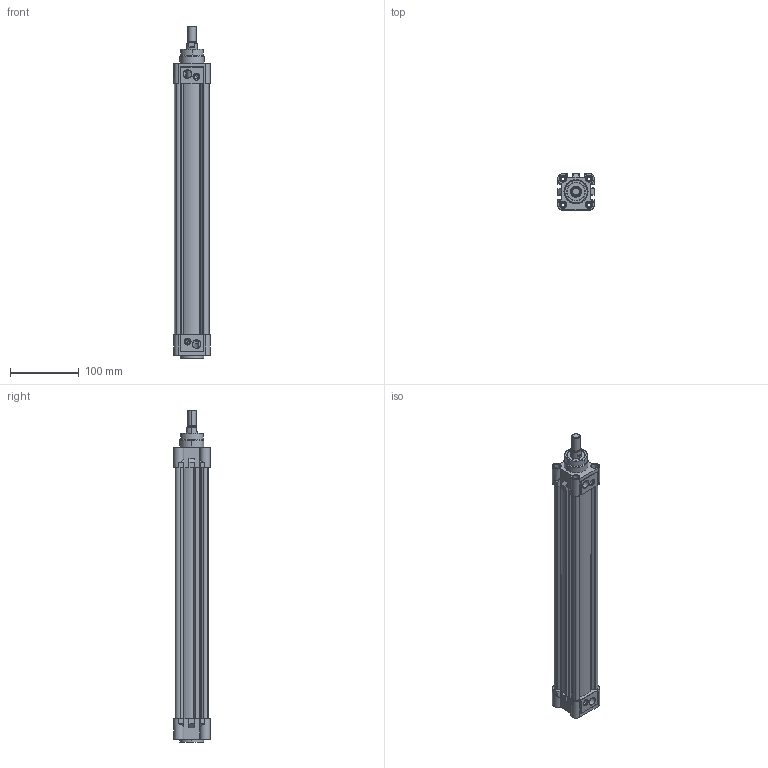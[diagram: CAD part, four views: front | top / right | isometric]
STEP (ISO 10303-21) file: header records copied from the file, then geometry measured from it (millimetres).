
FILE_DESCRIPTION (( 'STEP AP203' ), '1' );
FILE_NAME ('KDNT40X320CYLÝNDER.STEP', '2016-03-21T14:22:53', ( 'user' ), ( '' ), 'SwSTEP 2.0', 'SolidWorks 2013', '' );
FILE_SCHEMA (( 'CONFIG_CONTROL_DESIGN' ));
Length unit declared in the file: millimetre
Products named in the file (6): ARKA KAPAK 40; KDNT 40X320 BORU; ORTA PÝSTON 40; 烰 KAPAK  40; PÝSTON MÝLÝ 40X320; KDNT40X320CYLÝNDER
Assembly tree (5 placements, depth 2):
  KDNT40X320CYLÝNDER
    ARKA KAPAK 40
    KDNT 40X320 BORU
    ORTA PÝSTON 40
    烰 KAPAK  40
    PÝSTON MÝLÝ 40X320
Bounding box: 53 x 53.3 x 483 mm (x, y, z)
Volume: 459676.9 mm3; surface area: 236291.2 mm2
Topology: 5 solids, 5 shells, 644 faces, 1627 edges, 1037 vertices
Faces by surface type: cylinder 299, plane 199, cone 88, bspline 56, torus 2
Entity records: 26829 total; most frequent: CARTESIAN_POINT 11395, ORIENTED_EDGE 3230, DIRECTION 2880, EDGE_CURVE 1615, AXIS2_PLACEMENT_3D 1094, VERTEX_POINT 1037, EDGE_LOOP 740, VECTOR 692
